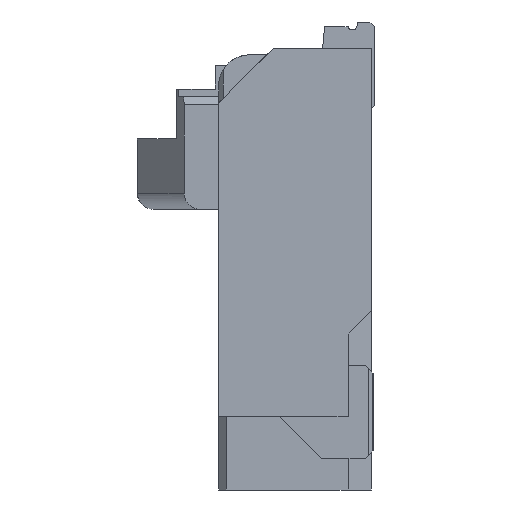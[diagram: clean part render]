
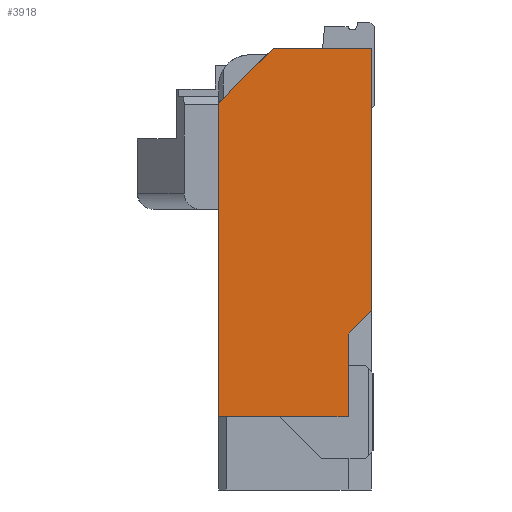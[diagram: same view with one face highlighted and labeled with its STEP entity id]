
A CAD part, left-side view. The second image highlights one B-rep face of the part: STEP entity #3918.
In plain terms, the highlighted planar face has unit normal (-1, 0, 0).
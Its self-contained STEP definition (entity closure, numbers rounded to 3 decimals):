
#3001 = EDGE_CURVE ( 'NONE', #6333, #6343, #15707, .T. ) ;
#3002 = EDGE_CURVE ( 'NONE', #6328, #6333, #15680, .T. ) ;
#3003 = EDGE_CURVE ( 'NONE', #6320, #6328, #15713, .T. ) ;
#3004 = EDGE_CURVE ( 'NONE', #6325, #6320, #15716, .T. ) ;
#3005 = EDGE_CURVE ( 'NONE', #6321, #6325, #15687, .T. ) ;
#3006 = EDGE_CURVE ( 'NONE', #6319, #6321, #15722, .T. ) ;
#3007 = EDGE_CURVE ( 'NONE', #6319, #6343, #15725, .T. ) ;
#3918 = ADVANCED_FACE ( 'NONE', ( #20108 ), #20109, .F. ) ;
#6319 = VERTEX_POINT ( 'NONE', #22808 ) ;
#6320 = VERTEX_POINT ( 'NONE', #22809 ) ;
#6321 = VERTEX_POINT ( 'NONE', #22810 ) ;
#6325 = VERTEX_POINT ( 'NONE', #22814 ) ;
#6328 = VERTEX_POINT ( 'NONE', #22817 ) ;
#6333 = VERTEX_POINT ( 'NONE', #22822 ) ;
#6343 = VERTEX_POINT ( 'NONE', #22832 ) ;
#7073 = EDGE_LOOP ( 'NONE', ( #8301, #8302, #8303, #8304, #8305, #8306, #8307 ) ) ;
#8301 = ORIENTED_EDGE ( 'NONE', *, *, #3001, .F. ) ;
#8302 = ORIENTED_EDGE ( 'NONE', *, *, #3002, .F. ) ;
#8303 = ORIENTED_EDGE ( 'NONE', *, *, #3003, .F. ) ;
#8304 = ORIENTED_EDGE ( 'NONE', *, *, #3004, .F. ) ;
#8305 = ORIENTED_EDGE ( 'NONE', *, *, #3005, .F. ) ;
#8306 = ORIENTED_EDGE ( 'NONE', *, *, #3006, .F. ) ;
#8307 = ORIENTED_EDGE ( 'NONE', *, *, #3007, .T. ) ;
#15680 = LINE ( 'NONE', #15711, #16296 ) ;
#15687 = LINE ( 'NONE', #15720, #16303 ) ;
#15707 = LINE ( 'NONE', #15709, #16302 ) ;
#15709 = CARTESIAN_POINT ( 'NONE',  ( -5.85, 0.17, -2. ) ) ;
#15710 = DIRECTION ( 'NONE',  ( 0., 0.707, -0.707 ) ) ;
#15711 = CARTESIAN_POINT ( 'NONE',  ( -5.85, 0.02, -0.17 ) ) ;
#15712 = DIRECTION ( 'NONE',  ( 0., 0., -1. ) ) ;
#15713 = LINE ( 'NONE', #15714, #16304 ) ;
#15714 = CARTESIAN_POINT ( 'NONE',  ( -5.85, 0.02, -0.17 ) ) ;
#15715 = DIRECTION ( 'NONE',  ( 0., -1., 0. ) ) ;
#15716 = LINE ( 'NONE', #15718, #16305 ) ;
#15718 = CARTESIAN_POINT ( 'NONE',  ( -5.85, 1., -0.52 ) ) ;
#15719 = DIRECTION ( 'NONE',  ( 0., -0.707, 0.707 ) ) ;
#15720 = CARTESIAN_POINT ( 'NONE',  ( -5.85, 1., -1.2 ) ) ;
#15721 = DIRECTION ( 'NONE',  ( 0., 0., 1. ) ) ;
#15722 = LINE ( 'NONE', #15723, #16307 ) ;
#15723 = CARTESIAN_POINT ( 'NONE',  ( -5.85, 0.17, -2.53 ) ) ;
#15724 = DIRECTION ( 'NONE',  ( 0., 1., 0. ) ) ;
#15725 = LINE ( 'NONE', #15727, #16308 ) ;
#15727 = CARTESIAN_POINT ( 'NONE',  ( -5.85, 0.17, -3. ) ) ;
#15728 = DIRECTION ( 'NONE',  ( 0., 0., 1. ) ) ;
#16296 = VECTOR ( 'NONE', #15712, 1000. ) ;
#16302 = VECTOR ( 'NONE', #15710, 1000. ) ;
#16303 = VECTOR ( 'NONE', #15721, 1000. ) ;
#16304 = VECTOR ( 'NONE', #15715, 1000. ) ;
#16305 = VECTOR ( 'NONE', #15719, 1000. ) ;
#16307 = VECTOR ( 'NONE', #15724, 1000. ) ;
#16308 = VECTOR ( 'NONE', #15728, 1000. ) ;
#19288 = AXIS2_PLACEMENT_3D ( 'NONE', #20104, #20111, #20112 ) ;
#20104 = CARTESIAN_POINT ( 'NONE',  ( -5.85, 0.53, -3. ) ) ;
#20108 = FACE_OUTER_BOUND ( 'NONE', #7073, .T. ) ;
#20109 = PLANE ( 'NONE',  #19288 ) ;
#20111 = DIRECTION ( 'NONE',  ( 1., 0., 0. ) ) ;
#20112 = DIRECTION ( 'NONE',  ( 0., 0., 1. ) ) ;
#22808 = CARTESIAN_POINT ( 'NONE',  ( -5.85, 0.17, -2.53 ) ) ;
#22809 = CARTESIAN_POINT ( 'NONE',  ( -5.85, 0.65, -0.17 ) ) ;
#22810 = CARTESIAN_POINT ( 'NONE',  ( -5.85, 1., -2.53 ) ) ;
#22814 = CARTESIAN_POINT ( 'NONE',  ( -5.85, 1., -0.52 ) ) ;
#22817 = CARTESIAN_POINT ( 'NONE',  ( -5.85, 0.02, -0.17 ) ) ;
#22822 = CARTESIAN_POINT ( 'NONE',  ( -5.85, 0.02, -1.85 ) ) ;
#22832 = CARTESIAN_POINT ( 'NONE',  ( -5.85, 0.17, -2. ) ) ;
